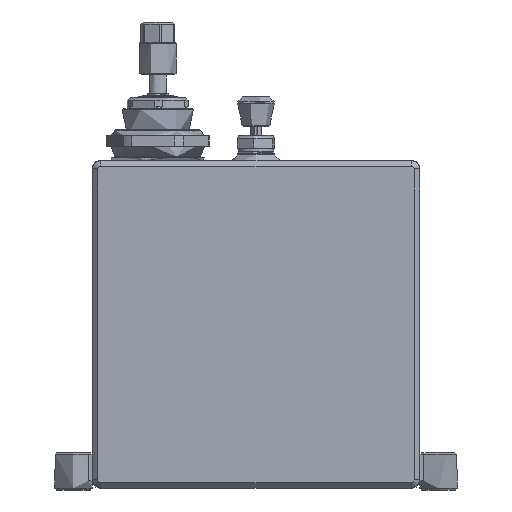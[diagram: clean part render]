
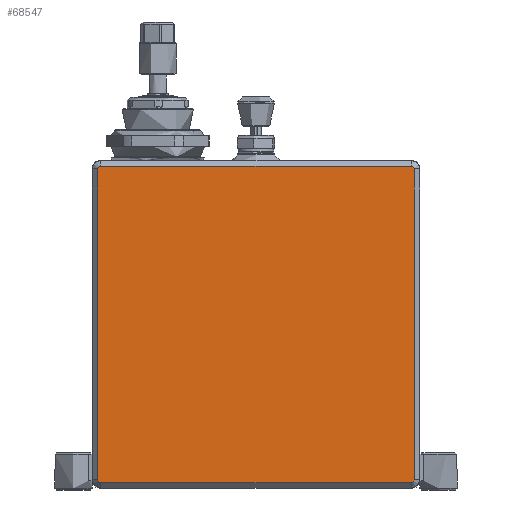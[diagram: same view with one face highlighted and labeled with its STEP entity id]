
A CAD part, left-side view. The second image highlights one B-rep face of the part: STEP entity #68547.
In plain terms, the highlighted planar face has unit normal (-1, 0, 0).
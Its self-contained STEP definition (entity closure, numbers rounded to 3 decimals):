
#1436=LINE('',#104071,#7209);
#1437=LINE('',#104073,#7210);
#1438=LINE('',#104074,#7211);
#1439=LINE('',#104075,#7212);
#7209=VECTOR('',#81496,1000.);
#7210=VECTOR('',#81497,1000.);
#7211=VECTOR('',#81498,1000.);
#7212=VECTOR('',#81499,1000.);
#18789=ORIENTED_EDGE('',*,*,#32229,.T.);
#18790=ORIENTED_EDGE('',*,*,#32196,.T.);
#18791=ORIENTED_EDGE('',*,*,#32230,.F.);
#18792=ORIENTED_EDGE('',*,*,#32207,.T.);
#18793=ORIENTED_EDGE('',*,*,#32231,.T.);
#18794=ORIENTED_EDGE('',*,*,#32227,.T.);
#18795=ORIENTED_EDGE('',*,*,#32232,.T.);
#18796=ORIENTED_EDGE('',*,*,#32233,.T.);
#32196=EDGE_CURVE('',#39384,#39383,#44075,.T.);
#32207=EDGE_CURVE('',#39394,#39393,#44082,.T.);
#32227=EDGE_CURVE('',#39409,#39408,#44090,.T.);
#32229=EDGE_CURVE('',#39410,#39384,#1436,.T.);
#32230=EDGE_CURVE('',#39394,#39383,#1437,.T.);
#32231=EDGE_CURVE('',#39393,#39409,#1438,.T.);
#32232=EDGE_CURVE('',#39408,#39411,#1439,.T.);
#32233=EDGE_CURVE('',#39411,#39410,#44091,.T.);
#39383=VERTEX_POINT('',#103999);
#39384=VERTEX_POINT('',#104001);
#39393=VERTEX_POINT('',#104023);
#39394=VERTEX_POINT('',#104025);
#39408=VERTEX_POINT('',#104066);
#39409=VERTEX_POINT('',#104068);
#39410=VERTEX_POINT('',#104072);
#39411=VERTEX_POINT('',#104076);
#44075=CIRCLE('',#72882,1.499);
#44082=CIRCLE('',#72892,1.499);
#44090=CIRCLE('',#72908,1.499);
#44091=CIRCLE('',#72910,1.499);
#46370=EDGE_LOOP('',(#18789,#18790,#18791,#18792,#18793,#18794,#18795,#18796));
#50794=FACE_BOUND('',#46370,.T.);
#54065=PLANE('',#72909);
#68547=ADVANCED_FACE('',(#50794),#54065,.F.);
#72882=AXIS2_PLACEMENT_3D('',#104000,#81423,#81424);
#72892=AXIS2_PLACEMENT_3D('',#104024,#81447,#81448);
#72908=AXIS2_PLACEMENT_3D('',#104067,#81491,#81492);
#72909=AXIS2_PLACEMENT_3D('',#104070,#81494,#81495);
#72910=AXIS2_PLACEMENT_3D('',#104077,#81500,#81501);
#81423=DIRECTION('',(-1.,0.,0.));
#81424=DIRECTION('',(0.,1.,0.));
#81447=DIRECTION('',(-1.,0.,0.));
#81448=DIRECTION('',(0.,0.,-1.));
#81491=DIRECTION('',(-1.,0.,0.));
#81492=DIRECTION('',(0.,-1.,0.));
#81494=DIRECTION('',(1.,0.,0.));
#81495=DIRECTION('',(0.,-1.,0.));
#81496=DIRECTION('',(0.,0.,-1.));
#81497=DIRECTION('',(0.,1.,0.));
#81498=DIRECTION('',(0.,0.,1.));
#81499=DIRECTION('',(0.,1.,0.));
#81500=DIRECTION('',(-1.,0.,0.));
#81501=DIRECTION('',(0.,0.,1.));
#103999=CARTESIAN_POINT('',(-62.785,30.426,-165.901));
#104000=CARTESIAN_POINT('',(-62.785,30.426,-164.403));
#104001=CARTESIAN_POINT('',(-62.785,31.924,-164.403));
#104023=CARTESIAN_POINT('',(-62.785,-136.907,-164.403));
#104024=CARTESIAN_POINT('',(-62.785,-135.408,-164.403));
#104025=CARTESIAN_POINT('',(-62.785,-135.408,-165.901));
#104066=CARTESIAN_POINT('',(-62.785,-135.408,2.93));
#104067=CARTESIAN_POINT('',(-62.785,-135.408,1.431));
#104068=CARTESIAN_POINT('',(-62.785,-136.907,1.431));
#104070=CARTESIAN_POINT('',(-62.785,-136.907,-165.901));
#104071=CARTESIAN_POINT('',(-62.785,31.924,1.431));
#104072=CARTESIAN_POINT('',(-62.785,31.924,1.431));
#104073=CARTESIAN_POINT('',(-62.785,-136.907,-165.901));
#104074=CARTESIAN_POINT('',(-62.785,-136.907,-164.403));
#104075=CARTESIAN_POINT('',(-62.785,-135.408,2.93));
#104076=CARTESIAN_POINT('',(-62.785,30.426,2.93));
#104077=CARTESIAN_POINT('',(-62.785,30.426,1.431));
